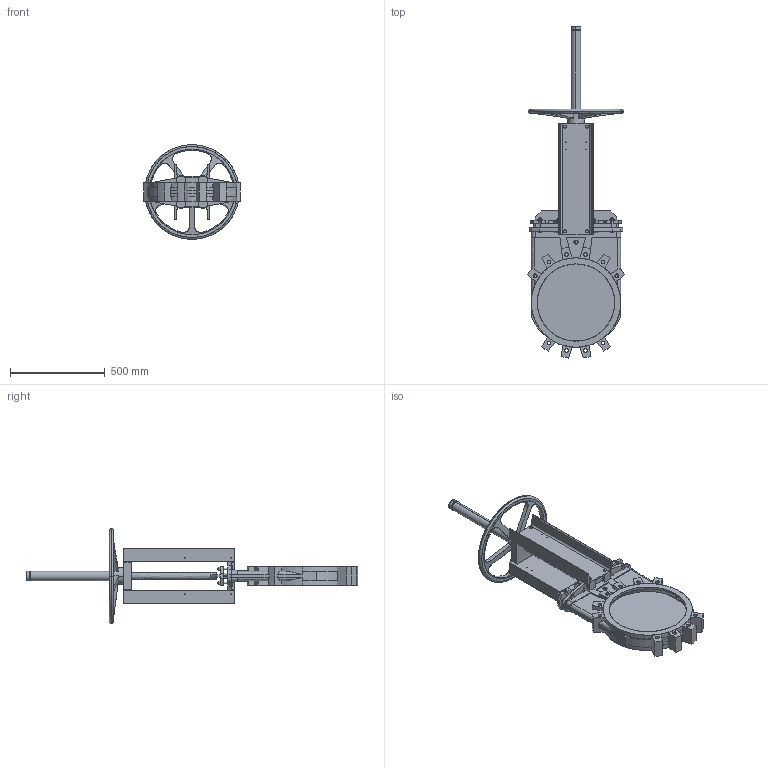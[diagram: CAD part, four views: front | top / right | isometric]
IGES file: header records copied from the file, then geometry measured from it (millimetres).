
Start section: SolidWorks IGES file using analytic representation for surfaces
Global section: file name: D:\part\3D Projects\VG-HANDWHEEL(DN50-600)\VG DN400\VG DN400.IGS; native system: SolidWorks 2009; preprocessor: SolidWorks 2009; author: zhixin.zheng; date: 100129.083439; units: millimetre
Bounding box: 512.16 x 1753.13 x 500 mm (x, y, z)
Surface area: 2549205.6 mm2 (no closed solid volume)
Topology: 0 solids, 0 shells, 973 faces, 10329 edges, 10329 vertices
Faces by surface type: bspline 602, revolution 371
